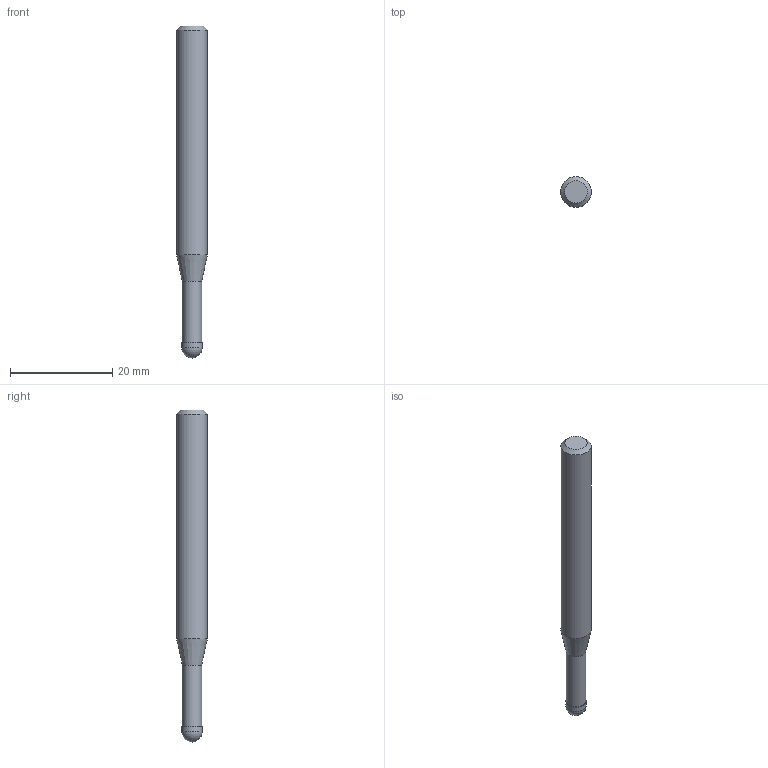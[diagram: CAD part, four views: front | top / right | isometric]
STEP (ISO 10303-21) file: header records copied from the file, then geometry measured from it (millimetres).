
FILE_DESCRIPTION((''),'2;1');
FILE_NAME('C:\Users\nsx150\AppData\Local\Temp\Mastercam 2021\ARV7HD45SN\TEMP.step','2023-06-13T16:39:07',(''),(''),'STEP Write','Mastercam 2021 ... CNC Software, Inc.','');
FILE_SCHEMA(('AUTOMOTIVE_DESIGN'));
Length unit declared in the file: millimetre
Products named in the file (1): None
Bounding box: 6 x 6 x 65 mm (x, y, z)
Volume: 1526.5 mm3; surface area: 1149.8 mm2
Topology: 2 solids, 2 shells, 9 faces, 14 edges, 8 vertices
Faces by surface type: plane 3, cylinder 3, cone 2, sphere 1
Full cylindrical faces by diameter (mm): 3.8 x1, 4 x1, 6 x1
Entity records: 211 total; most frequent: DIRECTION 36, CARTESIAN_POINT 25, AXIS2_PLACEMENT_3D 18, ORIENTED_EDGE 14, EDGE_LOOP 14, STYLED_ITEM 12, ADVANCED_FACE 9, FACE_BOUND 8
